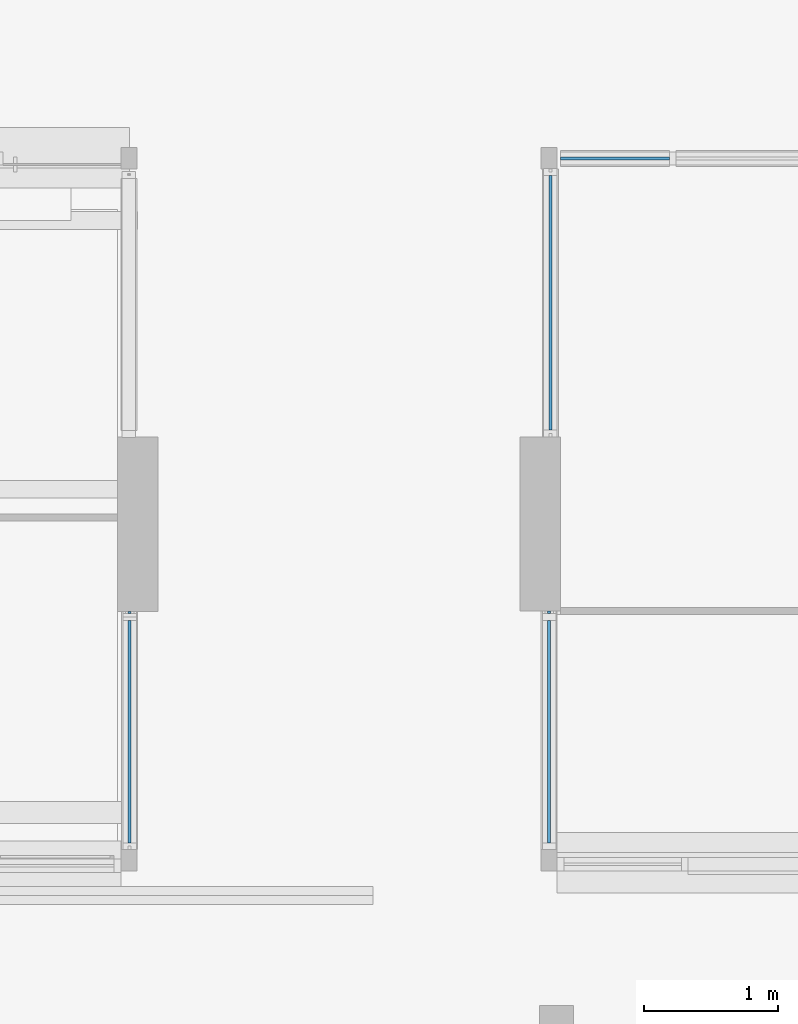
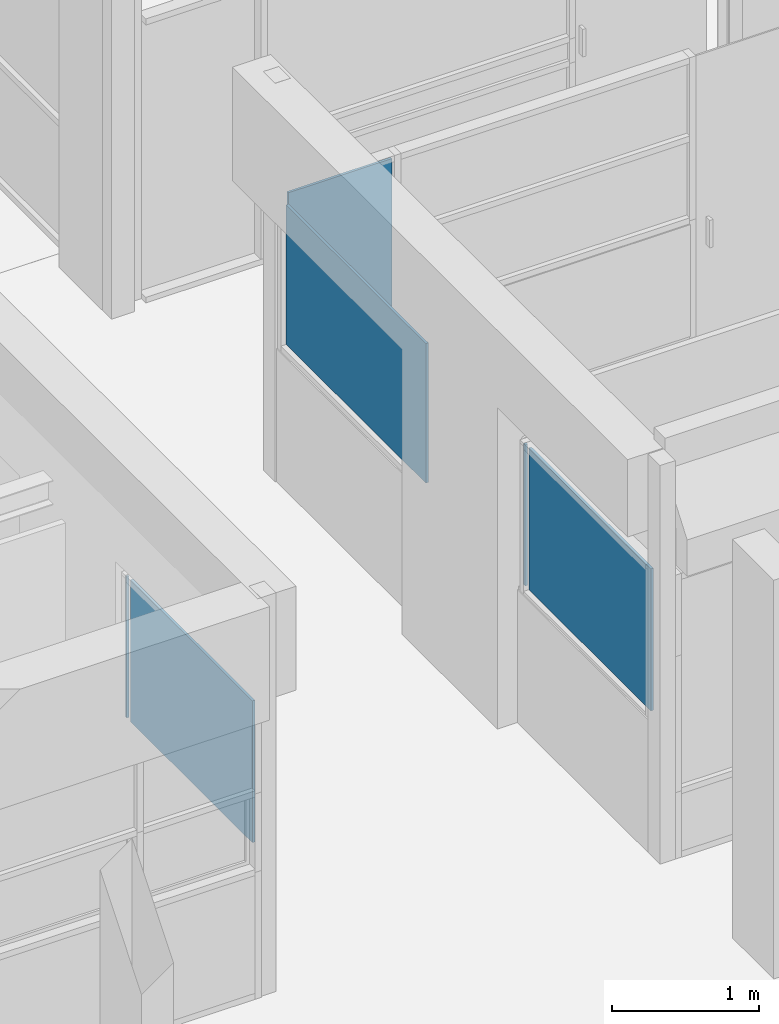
# One storey, part 40 of 117: 6 plates, 4 elements without a shape of their own.
"""IFC4 building model written with IfcOpenShell, lengths in metres."""

from ifc_helpers import new_model, entity, si_unit, converted_unit, derived_unit, direction, frame, origin, place, context, subcontext, project, spatial, indexed_curve, outline, extrude, source, transform, mapped, material, type_object, type_shapes, element, aggregate, save


model = new_model("IFC4")

# Units and contexts
model_context = context("Model", 3, precision=1e-05, world=origin(), true_north=direction((6.123031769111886e-17, 1.0)))
body_context = subcontext(model_context, "Body", "Model", "MODEL_VIEW")
ifc_project = project(units=[si_unit("LENGTHUNIT", "METRE"), si_unit("AREAUNIT", "SQUARE_METRE"), si_unit("VOLUMEUNIT", "CUBIC_METRE"), converted_unit("PLANEANGLEUNIT", "DEGREE", entity("IfcRatioMeasure", 0.017453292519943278), si_unit("PLANEANGLEUNIT", "RADIAN"), dimensions=[0, 0, 0, 0, 0, 0, 0]), si_unit("MASSUNIT", "GRAM", prefix="KILO"), derived_unit("MASSDENSITYUNIT", [(si_unit("MASSUNIT", "GRAM", prefix="KILO"), 1), (si_unit("LENGTHUNIT", "METRE"), -3)]), derived_unit("MOMENTOFINERTIAUNIT", [(si_unit("LENGTHUNIT", "METRE"), 4)]), si_unit("TIMEUNIT", "SECOND"), si_unit("FREQUENCYUNIT", "HERTZ"), si_unit("THERMODYNAMICTEMPERATUREUNIT", "DEGREE_CELSIUS"), derived_unit("THERMALTRANSMITTANCEUNIT", [(si_unit("MASSUNIT", "GRAM", prefix="KILO"), 1), (si_unit("THERMODYNAMICTEMPERATUREUNIT", "KELVIN"), -1), (si_unit("TIMEUNIT", "SECOND"), -3)]), derived_unit("VOLUMETRICFLOWRATEUNIT", [(si_unit("LENGTHUNIT", "METRE"), 3), (si_unit("TIMEUNIT", "SECOND"), -1)]), derived_unit("MASSFLOWRATEUNIT", [(si_unit("MASSUNIT", "GRAM", prefix="KILO"), 1), (si_unit("TIMEUNIT", "SECOND"), -1)]), derived_unit("ROTATIONALFREQUENCYUNIT", [(si_unit("TIMEUNIT", "SECOND"), -1)]), si_unit("ELECTRICCURRENTUNIT", "AMPERE"), si_unit("ELECTRICVOLTAGEUNIT", "VOLT"), si_unit("POWERUNIT", "WATT"), si_unit("FORCEUNIT", "NEWTON", prefix="KILO"), si_unit("ILLUMINANCEUNIT", "LUX"), si_unit("LUMINOUSFLUXUNIT", "LUMEN"), si_unit("LUMINOUSINTENSITYUNIT", "CANDELA"), derived_unit("USERDEFINED", [(si_unit("MASSUNIT", "GRAM", prefix="KILO"), -1), (si_unit("LENGTHUNIT", "METRE"), -2), (si_unit("TIMEUNIT", "SECOND"), 3), (si_unit("LUMINOUSFLUXUNIT", "LUMEN"), 1)]), derived_unit("SOUNDPOWERUNIT", [(si_unit("MASSUNIT", "GRAM", prefix="KILO"), 1), (si_unit("LENGTHUNIT", "METRE"), 2), (si_unit("TIMEUNIT", "SECOND"), -3)]), derived_unit("SOUNDPRESSUREUNIT", [(si_unit("MASSUNIT", "GRAM", prefix="KILO"), 1), (si_unit("LENGTHUNIT", "METRE"), -1), (si_unit("TIMEUNIT", "SECOND"), -2)]), derived_unit("LINEARVELOCITYUNIT", [(si_unit("LENGTHUNIT", "METRE"), 1), (si_unit("TIMEUNIT", "SECOND"), -1)]), si_unit("PRESSUREUNIT", "PASCAL"), derived_unit("USERDEFINED", [(si_unit("LENGTHUNIT", "METRE"), -2), (si_unit("MASSUNIT", "GRAM", prefix="KILO"), 1), (si_unit("TIMEUNIT", "SECOND"), -2)]), derived_unit("LINEARFORCEUNIT", [(si_unit("MASSUNIT", "GRAM", prefix="KILO"), 1), (si_unit("LENGTHUNIT", "METRE"), 1), (si_unit("TIMEUNIT", "SECOND"), -2), (si_unit("LENGTHUNIT", "METRE"), -1)]), derived_unit("PLANARFORCEUNIT", [(si_unit("MASSUNIT", "GRAM", prefix="KILO"), 1), (si_unit("LENGTHUNIT", "METRE"), 1), (si_unit("TIMEUNIT", "SECOND"), -2), (si_unit("LENGTHUNIT", "METRE"), -2)])], contexts=[model_context])

# Site, building, storey
site_placement = place(None, origin())
site = spatial("IfcSite", under=ifc_project, at=site_placement, Name="Superficie", CompositionType="ELEMENT")
building_placement = place(site_placement, origin())
building = spatial("IfcBuilding", under=site, at=building_placement, CompositionType="ELEMENT")
storey_placement = place(building_placement, origin())
storey = spatial("IfcBuildingStorey", under=building, at=storey_placement, Name="Nivel 0", CompositionType="ELEMENT", Elevation=0.0)

# Curtain wall, plates
curtain_wall_type = type_object("IfcCurtainWallType", Name="Muro cortina:Muro cortina - simple", PredefinedType="NOTDEFINED")
curtain_wall_1_placement = place(storey_placement, origin())
curtain_wall_1 = element("IfcCurtainWall", 1, at=curtain_wall_1_placement, inside=storey, type_object=curtain_wall_type, Name="Muro cortina:Muro cortina - simple", ObjectType="Muro cortina:Muro cortina - simple", PredefinedType="NOTDEFINED")
ifc_material = material(Name="Cristal", Category="Vidrio")
plate_type_1 = type_object("IfcPlateType", Name="Panel de sistema:Acristalado", PredefinedType="CURTAIN_PANEL", material=ifc_material)
shared_shape_1 = source(origin(), body_context, "Body", "SweptSolid", [
    extrude(outline(indexed_curve([(-0.01, -0.007499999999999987), (0.01, -0.007499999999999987), (0.01, 0.007499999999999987), (-0.01, 0.007499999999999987), (-0.01, -0.007499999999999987)], self_intersect=False)), frame((0.0, 0.0, 0.0), z_axis=(0.0, 0.0, 1.0), x_axis=(0.0, 1.0, 0.0)), (0.0, 0.0, 1.0), 1.1682499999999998),
])
type_shapes(plate_type_1, [shared_shape_1])
plate_1_placement = place(curtain_wall_1_placement, frame((12.786799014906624, 0.14832928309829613, 1.1250000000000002), z_axis=(0.0, 0.0, 1.0), x_axis=(0.0, -1.0, 0.0)))
plate_1 = element("IfcPlate", 2, at=plate_1_placement, type_object=plate_type_1, material=ifc_material, Name="Panel de sistema:Acristalado", ObjectType="Panel de sistema:Acristalado", PredefinedType="CURTAIN_PANEL", context=body_context, shape_type="MappedRepresentation", body=[
    mapped(shared_shape_1, transform((0.0, 0.0, 0.0), scale=1.0)),
])
plate_type_2 = type_object("IfcPlateType", Name="Panel de sistema:Acristalado", PredefinedType="CURTAIN_PANEL", material=ifc_material)
shared_shape_2 = source(origin(), body_context, "Body", "SweptSolid", [
    extrude(outline(indexed_curve([(-0.01, -0.827499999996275), (0.01, -0.827499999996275), (0.01, 0.827499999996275), (-0.01, 0.827499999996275), (-0.01, -0.827499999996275)], self_intersect=False)), frame((0.0, 0.0, 0.0), z_axis=(0.0, 0.0, 1.0), x_axis=(0.0, 1.0, 0.0)), (0.0, 0.0, 1.0), 1.1749999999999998),
])
type_shapes(plate_type_2, [shared_shape_2])
plate_2_placement = place(curtain_wall_1_placement, frame((12.786799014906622, -0.7366707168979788, 1.125), z_axis=(0.0, 0.0, 1.0), x_axis=(0.0, -1.0, 0.0)))
plate_2 = element("IfcPlate", 3, at=plate_2_placement, type_object=plate_type_2, material=ifc_material, Name="Panel de sistema:Acristalado", ObjectType="Panel de sistema:Acristalado", PredefinedType="CURTAIN_PANEL", context=body_context, shape_type="MappedRepresentation", body=[
    mapped(shared_shape_2, transform((0.0, 0.0, 0.0), scale=1.0)),
])
aggregate(curtain_wall_1, [plate_1, plate_2])

curtain_wall_2_placement = place(storey_placement, origin())
curtain_wall_2 = element("IfcCurtainWall", 4, at=curtain_wall_2_placement, inside=storey, type_object=curtain_wall_type, Name="Muro cortina:Muro cortina - simple", ObjectType="Muro cortina:Muro cortina - simple", PredefinedType="NOTDEFINED")
plate_3_placement = place(curtain_wall_2_placement, frame((15.906799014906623, -0.7366707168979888, 1.125), z_axis=(0.0, 0.0, 1.0), x_axis=(0.0, -1.0, 0.0)))
plate_3 = element("IfcPlate", 5, at=plate_3_placement, type_object=plate_type_2, material=ifc_material, Name="Panel de sistema:Acristalado", ObjectType="Panel de sistema:Acristalado", PredefinedType="CURTAIN_PANEL", context=body_context, shape_type="MappedRepresentation", body=[
    mapped(shared_shape_2, transform((0.0, 0.0, 0.0), scale=1.0)),
])
plate_type_3 = type_object("IfcPlateType", Name="Panel de sistema:Acristalado", PredefinedType="CURTAIN_PANEL", material=ifc_material)
shared_shape_3 = source(origin(), body_context, "Body", "SweptSolid", [
    extrude(outline(indexed_curve([(-0.01, -0.010000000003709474), (0.01, -0.010000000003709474), (0.01, 0.010000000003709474), (-0.01, 0.010000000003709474), (-0.01, -0.010000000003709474)], self_intersect=False)), frame((0.0, 0.0, 0.0), z_axis=(0.0, 0.0, 1.0), x_axis=(0.0, 1.0, 0.0)), (0.0, 0.0, 1.0), 1.1682499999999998),
])
type_shapes(plate_type_3, [shared_shape_3])
plate_4_placement = place(curtain_wall_2_placement, frame((15.906799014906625, 0.1508292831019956, 1.125), z_axis=(0.0, 0.0, 1.0), x_axis=(0.0, -1.0, 0.0)))
plate_4 = element("IfcPlate", 6, at=plate_4_placement, type_object=plate_type_3, material=ifc_material, Name="Panel de sistema:Acristalado", ObjectType="Panel de sistema:Acristalado", PredefinedType="CURTAIN_PANEL", context=body_context, shape_type="MappedRepresentation", body=[
    mapped(shared_shape_3, transform((0.0, 0.0, 0.0), scale=1.0)),
])
aggregate(curtain_wall_2, [plate_4, plate_3])

# Curtain wall, plate
curtain_wall_3_placement = place(storey_placement, origin())
curtain_wall_3 = element("IfcCurtainWall", 7, at=curtain_wall_3_placement, inside=storey, type_object=curtain_wall_type, Name="Muro cortina:Muro cortina - simple", ObjectType="Muro cortina:Muro cortina - simple", PredefinedType="NOTDEFINED")
plate_type_4 = type_object("IfcPlateType", Name="Panel de sistema:Acristalado", PredefinedType="CURTAIN_PANEL", material=ifc_material)
shared_shape_4 = source(origin(), body_context, "Body", "SweptSolid", [
    extrude(outline(indexed_curve([(-0.01, -0.9474422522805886), (0.01, -0.9474422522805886), (0.01, 0.9474422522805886), (-0.01, 0.9474422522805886), (-0.01, -0.9474422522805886)], self_intersect=False)), frame((0.0, 0.0, 0.0), z_axis=(0.0, 0.0, 1.0), x_axis=(0.0, 1.0, 0.0)), (0.0, 0.0, 1.0), 1.1549999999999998),
])
type_shapes(plate_type_4, [shared_shape_4])
plate_5_placement = place(curtain_wall_3_placement, frame((15.916799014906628, 2.4532715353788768, 1.1450000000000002), z_axis=(0.0, 0.0, 1.0), x_axis=(0.0, -1.0, 0.0)))
plate_5 = element("IfcPlate", 8, at=plate_5_placement, type_object=plate_type_4, material=ifc_material, Name="Panel de sistema:Acristalado", ObjectType="Panel de sistema:Acristalado", PredefinedType="CURTAIN_PANEL", context=body_context, shape_type="MappedRepresentation", body=[
    mapped(shared_shape_4, transform((0.0, 0.0, 0.0), scale=1.0)),
])
aggregate(curtain_wall_3, [plate_5])

curtain_wall_4_placement = place(storey_placement, origin())
curtain_wall_4 = element("IfcCurtainWall", 9, at=curtain_wall_4_placement, inside=storey, type_object=curtain_wall_type, Name="Muro cortina:Muro cortina - simple", ObjectType="Muro cortina:Muro cortina - simple", PredefinedType="NOTDEFINED")
plate_type_5 = type_object("IfcPlateType", Name="Panel de sistema:Acristalado", PredefinedType="CURTAIN_PANEL", material=ifc_material)
shared_shape_5 = source(origin(), body_context, "Body", "SweptSolid", [
    extrude(outline(indexed_curve([(-0.01, -0.40460146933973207), (0.01, -0.40460146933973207), (0.01, 0.40460146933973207), (-0.01, 0.40460146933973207), (-0.01, -0.40460146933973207)], self_intersect=False)), frame((0.0, 0.0, 0.0), z_axis=(0.0, 0.0, 1.0), x_axis=(0.0, 1.0, 0.0)), (0.0, 0.0, 1.0), 1.2750000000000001),
])
type_shapes(plate_type_5, [shared_shape_5])
plate_6_placement = place(curtain_wall_4_placement, frame((16.396400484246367, 3.5257137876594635, 1.025), z_axis=(0.0, 0.0, 1.0), x_axis=(-1.0, 0.0, 0.0)))
plate_6 = element("IfcPlate", 10, at=plate_6_placement, type_object=plate_type_5, material=ifc_material, Name="Panel de sistema:Acristalado", ObjectType="Panel de sistema:Acristalado", PredefinedType="CURTAIN_PANEL", context=body_context, shape_type="MappedRepresentation", body=[
    mapped(shared_shape_5, transform((0.0, 0.0, 0.0), scale=1.0)),
])
aggregate(curtain_wall_4, [plate_6])

save(model, "model.ifc")
